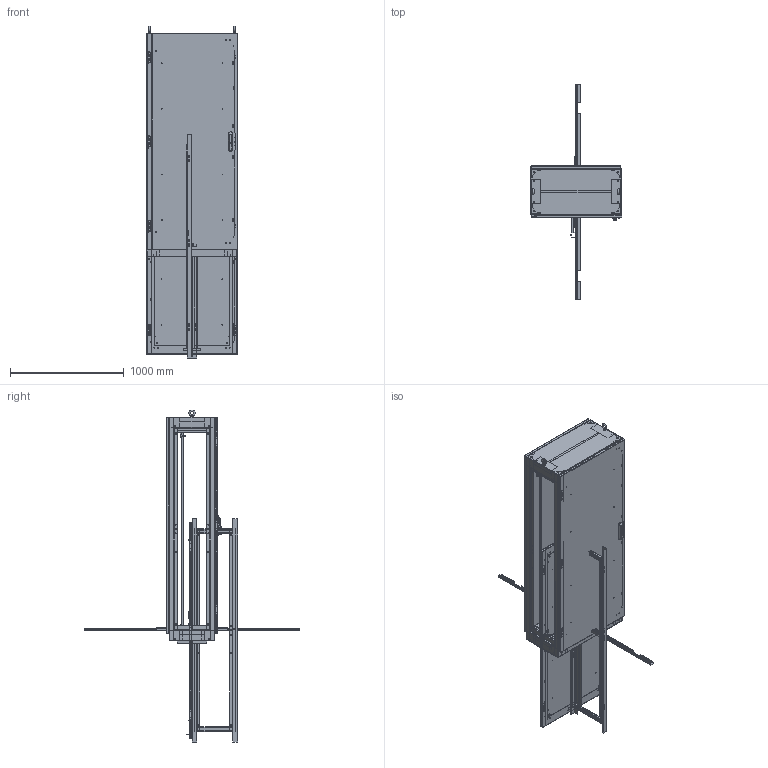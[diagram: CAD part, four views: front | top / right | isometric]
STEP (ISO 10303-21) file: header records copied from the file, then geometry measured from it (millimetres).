
FILE_DESCRIPTION( ( 'Unknown' ), '1' );
FILE_NAME( 'Q:/IME/WEB DRAWINGS/IME1884.stp', 'Unknown', ( 'Unknown' ), ( 'Unknown' ), 'XStep 1.0', 'Unknown', ' ' );
FILE_SCHEMA( ( 'CONFIG_CONTROL_DESIGN' ) );
Length unit declared in the file: millimetre
Products named in the file (99): Assem1; Assem2; Assem3; Assem4; Assem5; Assem6; Assem7; Assem8; Assem9; Assem10; Assem11; Assem12; Assem13; Assem14; Assem15; Assem16; Assem17; Assem18; 1; 2; 3; 4; 5; 6; 7; 8; 9; 10; 11; 12; 13; 14; 15; 16; 17; 18; 19; 20; 21; 22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
Bounding box: 800.42 x 1892.5 x 2917.15 mm (x, y, z)
Volume: 45331793.5 mm3; surface area: 49210732.3 mm2
Topology: 382 solids, 388 shells, 9324 faces, 23718 edges, 15487 vertices
Faces by surface type: plane 5876, cylinder 2719, torus 304, cone 262, bspline 163
Full cylindrical faces by diameter (mm): 2.464 x12, 3.175 x3, 3.454 x8, 3.607 x12, 4.166 x40, 4.216 x12, 4.318 x12, 4.826 x16, 4.851 x8, 4.928 x12, 5.08 x24, 5.156 x12, 5.537 x86, 5.893 x8, 5.994 x14, 6 x40, 6.35 x54, 6.411 x15, 7.137 x16, 7.366 x12, 7.62 x18, 7.938 x76, 8.001 x24, 8.026 x8, 9.525 x18, 9.804 x23, 10.999 x8, 11.113 x12, 11.506 x28, 11.684 x15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
Entity records: 74123 total; most frequent: CARTESIAN_POINT 16964, DIRECTION 10987, ORIENTED_EDGE 10448, EDGE_CURVE 5224, AXIS2_PLACEMENT_3D 3707, LINE 3573, VECTOR 3573, VERTEX_POINT 3546
